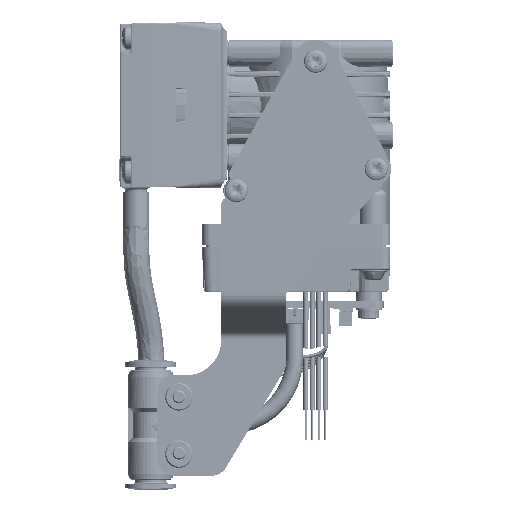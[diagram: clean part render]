
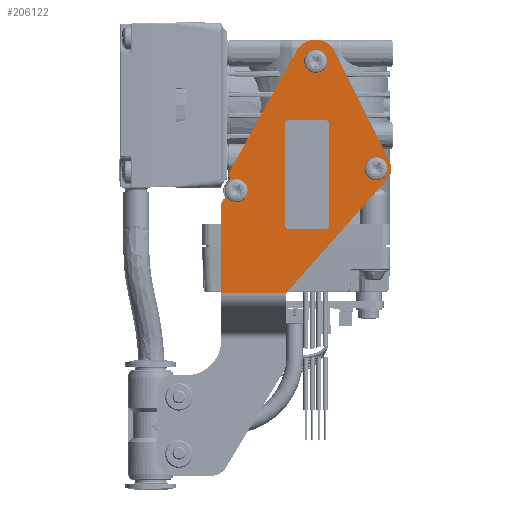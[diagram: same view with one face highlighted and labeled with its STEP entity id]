
A CAD part, left-side view. The second image highlights one B-rep face of the part: STEP entity #206122.
In plain terms, the highlighted planar face has unit normal (-1, 0, 0).
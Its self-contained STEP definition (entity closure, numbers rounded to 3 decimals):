
#42727=DIRECTION('',(0.,1.,0.));
#42728=VECTOR('',#42727,15.);
#42729=CARTESIAN_POINT('',(-18.7,6.8,-43.4));
#42730=LINE('',#42729,#42728);
#42944=CARTESIAN_POINT('',(-18.7,18.3,-19.75));
#42945=DIRECTION('',(1.,0.,0.));
#42946=DIRECTION('',(0.,0.,1.));
#42947=AXIS2_PLACEMENT_3D('',#42944,#42945,#42946);
#42949=CARTESIAN_POINT('',(-18.7,18.3,-19.75));
#42950=DIRECTION('',(1.,0.,0.));
#42951=DIRECTION('',(0.,0.421,0.907));
#42952=AXIS2_PLACEMENT_3D('',#42949,#42950,#42951);
#42954=CARTESIAN_POINT('',(-18.7,17.969,-16.065));
#42955=DIRECTION('',(-1.,0.,0.));
#42956=DIRECTION('',(0.,0.874,0.486));
#42957=AXIS2_PLACEMENT_3D('',#42954,#42955,#42956);
#42959=DIRECTION('',(0.,-0.486,0.874));
#42960=VECTOR('',#42959,31.599);
#42961=CARTESIAN_POINT('',(-18.7,19.717,-15.094));
#42962=LINE('',#42961,#42960);
#42963=CARTESIAN_POINT('',(-18.7,0.,10.1));
#42964=DIRECTION('',(1.,0.,0.));
#42965=DIRECTION('',(0.,0.874,0.486));
#42966=AXIS2_PLACEMENT_3D('',#42963,#42964,#42965);
#42968=DIRECTION('',(0.,-0.445,-0.896));
#42969=VECTOR('',#42968,28.439);
#42970=CARTESIAN_POINT('',(-18.7,-4.478,12.325));
#42971=LINE('',#42970,#42969);
#42972=CARTESIAN_POINT('',(-18.7,-14.,-14.7));
#42973=DIRECTION('',(1.,0.,0.));
#42974=DIRECTION('',(0.,-0.896,0.445));
#42975=AXIS2_PLACEMENT_3D('',#42972,#42973,#42974);
#42977=DIRECTION('',(0.,0.664,-0.748));
#42978=VECTOR('',#42977,35.272);
#42979=CARTESIAN_POINT('',(-18.7,-16.617,-17.024));
#42980=LINE('',#42979,#42978);
#42981=DIRECTION('',(0.,0.,-1.));
#42982=VECTOR('',#42981,20.268);
#42983=CARTESIAN_POINT('',(-18.7,21.8,-23.132));
#42984=LINE('',#42983,#42982);
#42985=CARTESIAN_POINT('',(-18.7,19.8,-23.132));
#42986=DIRECTION('',(-1.,0.,0.));
#42987=DIRECTION('',(0.,0.241,0.971));
#42988=AXIS2_PLACEMENT_3D('',#42985,#42986,#42987);
#42990=CARTESIAN_POINT('',(-18.7,18.3,-19.75));
#42991=DIRECTION('',(1.,0.,0.));
#42992=DIRECTION('',(0.,0.,-1.));
#42993=AXIS2_PLACEMENT_3D('',#42990,#42991,#42992);
#42995=CARTESIAN_POINT('',(-18.7,0.,10.1));
#42996=DIRECTION('',(1.,0.,0.));
#42997=DIRECTION('',(0.,0.,1.));
#42998=AXIS2_PLACEMENT_3D('',#42995,#42996,#42997);
#43000=CARTESIAN_POINT('',(-18.7,0.,10.1));
#43001=DIRECTION('',(1.,0.,0.));
#43002=DIRECTION('',(0.,0.,-1.));
#43003=AXIS2_PLACEMENT_3D('',#43000,#43001,#43002);
#43005=CARTESIAN_POINT('',(-18.7,-14.,-14.7));
#43006=DIRECTION('',(1.,0.,0.));
#43007=DIRECTION('',(0.,0.,1.));
#43008=AXIS2_PLACEMENT_3D('',#43005,#43006,#43007);
#43010=CARTESIAN_POINT('',(-18.7,-14.,-14.7));
#43011=DIRECTION('',(1.,0.,0.));
#43012=DIRECTION('',(0.,0.,-1.));
#43013=AXIS2_PLACEMENT_3D('',#43010,#43011,#43012);
#43015=DIRECTION('',(0.,0.,1.));
#43016=VECTOR('',#43015,24.);
#43017=CARTESIAN_POINT('',(-18.7,-3.,-28.));
#43018=LINE('',#43017,#43016);
#43019=CARTESIAN_POINT('',(-18.7,-2.5,-4.));
#43020=DIRECTION('',(-1.,0.,0.));
#43021=DIRECTION('',(0.,-1.,0.));
#43022=AXIS2_PLACEMENT_3D('',#43019,#43020,#43021);
#43024=DIRECTION('',(0.,1.,0.));
#43025=VECTOR('',#43024,9.);
#43026=CARTESIAN_POINT('',(-18.7,-2.5,-3.5));
#43027=LINE('',#43026,#43025);
#43028=CARTESIAN_POINT('',(-18.7,6.5,-4.));
#43029=DIRECTION('',(1.,0.,0.));
#43030=DIRECTION('',(0.,1.,0.));
#43031=AXIS2_PLACEMENT_3D('',#43028,#43029,#43030);
#43033=DIRECTION('',(0.,0.,1.));
#43034=VECTOR('',#43033,24.);
#43035=CARTESIAN_POINT('',(-18.7,7.,-28.));
#43036=LINE('',#43035,#43034);
#43037=CARTESIAN_POINT('',(-18.7,6.5,-28.));
#43038=DIRECTION('',(-1.,0.,0.));
#43039=DIRECTION('',(0.,1.,0.));
#43040=AXIS2_PLACEMENT_3D('',#43037,#43038,#43039);
#43042=DIRECTION('',(0.,1.,0.));
#43043=VECTOR('',#43042,9.);
#43044=CARTESIAN_POINT('',(-18.7,-2.5,-28.5));
#43045=LINE('',#43044,#43043);
#43046=CARTESIAN_POINT('',(-18.7,-2.5,-28.));
#43047=DIRECTION('',(1.,0.,0.));
#43048=DIRECTION('',(0.,-1.,0.));
#43049=AXIS2_PLACEMENT_3D('',#43046,#43047,#43048);
#146233=CARTESIAN_POINT('',(-18.7,-17.134,-13.142));
#146234=CARTESIAN_POINT('',(-18.7,-16.617,-17.024));
#146235=VERTEX_POINT('',#146233);
#146236=VERTEX_POINT('',#146234);
#146237=CARTESIAN_POINT('',(-18.7,6.8,-43.4));
#146238=VERTEX_POINT('',#146237);
#146239=CARTESIAN_POINT('',(-18.7,4.371,12.528));
#146240=CARTESIAN_POINT('',(-18.7,-4.478,12.325));
#146241=VERTEX_POINT('',#146239);
#146242=VERTEX_POINT('',#146240);
#146251=CARTESIAN_POINT('',(-18.7,21.8,-43.4));
#146252=VERTEX_POINT('',#146251);
#146312=CARTESIAN_POINT('',(-18.7,19.717,-15.094));
#146314=VERTEX_POINT('',#146312);
#146315=CARTESIAN_POINT('',(-18.7,21.8,-23.132));
#146317=VERTEX_POINT('',#146315);
#147000=CARTESIAN_POINT('',(-18.7,18.3,-17.3));
#147001=CARTESIAN_POINT('',(-18.7,18.3,-22.2));
#147002=VERTEX_POINT('',#147000);
#147003=VERTEX_POINT('',#147001);
#147004=CARTESIAN_POINT('',(-18.7,20.282,-21.191));
#147005=VERTEX_POINT('',#147004);
#147006=CARTESIAN_POINT('',(-18.7,19.333,-17.528));
#147007=VERTEX_POINT('',#147006);
#147188=CARTESIAN_POINT('',(-18.7,0.,12.55));
#147189=CARTESIAN_POINT('',(-18.7,0.,7.65));
#147190=VERTEX_POINT('',#147188);
#147191=VERTEX_POINT('',#147189);
#147358=CARTESIAN_POINT('',(-18.7,-14.,-12.25));
#147359=CARTESIAN_POINT('',(-18.7,-14.,-17.15));
#147360=VERTEX_POINT('',#147358);
#147361=VERTEX_POINT('',#147359);
#147899=CARTESIAN_POINT('',(-18.7,-3.,-28.));
#147900=CARTESIAN_POINT('',(-18.7,-3.,-4.));
#147901=VERTEX_POINT('',#147899);
#147902=VERTEX_POINT('',#147900);
#147903=CARTESIAN_POINT('',(-18.7,7.,-28.));
#147904=CARTESIAN_POINT('',(-18.7,7.,-4.));
#147905=VERTEX_POINT('',#147903);
#147906=VERTEX_POINT('',#147904);
#147907=CARTESIAN_POINT('',(-18.7,-2.5,-28.5));
#147908=CARTESIAN_POINT('',(-18.7,6.5,-28.5));
#147909=VERTEX_POINT('',#147907);
#147910=VERTEX_POINT('',#147908);
#147911=CARTESIAN_POINT('',(-18.7,-2.5,-3.5));
#147912=CARTESIAN_POINT('',(-18.7,6.5,-3.5));
#147913=VERTEX_POINT('',#147911);
#147914=VERTEX_POINT('',#147912);
#206068=CARTESIAN_POINT('',(-18.7,-17.5,-43.4));
#206069=DIRECTION('',(-1.,0.,0.));
#206070=DIRECTION('',(0.,0.,1.));
#206071=AXIS2_PLACEMENT_3D('',#206068,#206069,#206070);
#206072=PLANE('',#206071);
#206074=ORIENTED_EDGE('',*,*,#206073,.F.);
#206076=ORIENTED_EDGE('',*,*,#206075,.F.);
#206077=ORIENTED_EDGE('',*,*,#205952,.F.);
#206078=ORIENTED_EDGE('',*,*,#205973,.T.);
#206079=ORIENTED_EDGE('',*,*,#205993,.T.);
#206080=ORIENTED_EDGE('',*,*,#206014,.T.);
#206081=ORIENTED_EDGE('',*,*,#206035,.T.);
#206082=ORIENTED_EDGE('',*,*,#206055,.T.);
#206083=ORIENTED_EDGE('',*,*,#205679,.T.);
#206085=ORIENTED_EDGE('',*,*,#206084,.F.);
#206087=ORIENTED_EDGE('',*,*,#206086,.F.);
#206089=ORIENTED_EDGE('',*,*,#206088,.F.);
#206090=EDGE_LOOP('',(#206074,#206076,#206077,#206078,#206079,#206080,#206081,
#206082,#206083,#206085,#206087,#206089));
#206091=FACE_OUTER_BOUND('',#206090,.F.);
#206093=ORIENTED_EDGE('',*,*,#206092,.F.);
#206095=ORIENTED_EDGE('',*,*,#206094,.F.);
#206096=EDGE_LOOP('',(#206093,#206095));
#206097=FACE_BOUND('',#206096,.F.);
#206099=ORIENTED_EDGE('',*,*,#206098,.F.);
#206101=ORIENTED_EDGE('',*,*,#206100,.F.);
#206102=EDGE_LOOP('',(#206099,#206101));
#206103=FACE_BOUND('',#206102,.F.);
#206105=ORIENTED_EDGE('',*,*,#206104,.T.);
#206107=ORIENTED_EDGE('',*,*,#206106,.T.);
#206109=ORIENTED_EDGE('',*,*,#206108,.T.);
#206111=ORIENTED_EDGE('',*,*,#206110,.F.);
#206113=ORIENTED_EDGE('',*,*,#206112,.F.);
#206115=ORIENTED_EDGE('',*,*,#206114,.T.);
#206117=ORIENTED_EDGE('',*,*,#206116,.F.);
#206119=ORIENTED_EDGE('',*,*,#206118,.F.);
#206120=EDGE_LOOP('',(#206105,#206107,#206109,#206111,#206113,#206115,#206117,
#206119));
#206121=FACE_BOUND('',#206120,.F.);
#42948=CIRCLE('',#42947,2.45);
#42953=CIRCLE('',#42952,2.45);
#42958=CIRCLE('',#42957,2.);
#42967=CIRCLE('',#42966,5.);
#42976=CIRCLE('',#42975,3.5);
#42989=CIRCLE('',#42988,2.);
#42994=CIRCLE('',#42993,2.45);
#42999=CIRCLE('',#42998,2.45);
#43004=CIRCLE('',#43003,2.45);
#43009=CIRCLE('',#43008,2.45);
#43014=CIRCLE('',#43013,2.45);
#43023=CIRCLE('',#43022,0.5);
#43032=CIRCLE('',#43031,0.5);
#43041=CIRCLE('',#43040,0.5);
#43050=CIRCLE('',#43049,0.5);
#205679=EDGE_CURVE('',#146238,#146252,#42730,.T.);
#205952=EDGE_CURVE('',#146314,#147007,#42958,.T.);
#205973=EDGE_CURVE('',#146314,#146241,#42962,.T.);
#205993=EDGE_CURVE('',#146241,#146242,#42967,.T.);
#206014=EDGE_CURVE('',#146242,#146235,#42971,.T.);
#206035=EDGE_CURVE('',#146235,#146236,#42976,.T.);
#206055=EDGE_CURVE('',#146236,#146238,#42980,.T.);
#206073=EDGE_CURVE('',#147002,#147003,#42948,.T.);
#206075=EDGE_CURVE('',#147007,#147002,#42953,.T.);
#206084=EDGE_CURVE('',#146317,#146252,#42984,.T.);
#206086=EDGE_CURVE('',#147005,#146317,#42989,.T.);
#206088=EDGE_CURVE('',#147003,#147005,#42994,.T.);
#206092=EDGE_CURVE('',#147190,#147191,#42999,.T.);
#206094=EDGE_CURVE('',#147191,#147190,#43004,.T.);
#206098=EDGE_CURVE('',#147360,#147361,#43009,.T.);
#206100=EDGE_CURVE('',#147361,#147360,#43014,.T.);
#206104=EDGE_CURVE('',#147901,#147902,#43018,.T.);
#206106=EDGE_CURVE('',#147902,#147913,#43023,.T.);
#206108=EDGE_CURVE('',#147913,#147914,#43027,.T.);
#206110=EDGE_CURVE('',#147906,#147914,#43032,.T.);
#206112=EDGE_CURVE('',#147905,#147906,#43036,.T.);
#206114=EDGE_CURVE('',#147905,#147910,#43041,.T.);
#206116=EDGE_CURVE('',#147909,#147910,#43045,.T.);
#206118=EDGE_CURVE('',#147901,#147909,#43050,.T.);
#206122=ADVANCED_FACE('',(#206091,#206097,#206103,#206121),#206072,.T.);
